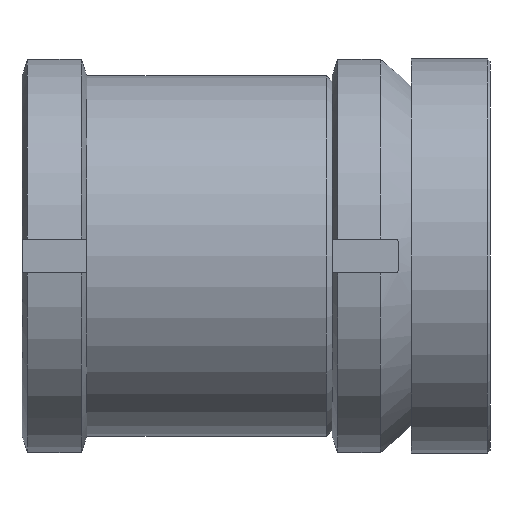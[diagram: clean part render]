
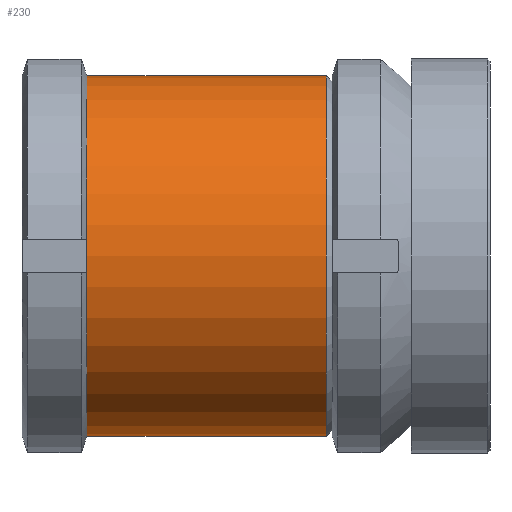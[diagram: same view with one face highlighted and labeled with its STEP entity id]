
A CAD part, front view. The second image highlights one B-rep face of the part: STEP entity #230.
In plain terms, the highlighted cylindrical face has radius 32 mm (diameter 64 mm), a full revolution.
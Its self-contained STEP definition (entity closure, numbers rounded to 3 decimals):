
#230 = ADVANCED_FACE( '', ( #326, #327 ), #328, .T. );
#326 = FACE_OUTER_BOUND( '', #481, .T. );
#327 = FACE_OUTER_BOUND( '', #482, .T. );
#328 = CYLINDRICAL_SURFACE( '', #483, 32. );
#481 = EDGE_LOOP( '', ( #761 ) );
#482 = EDGE_LOOP( '', ( #762 ) );
#483 = AXIS2_PLACEMENT_3D( '', #763, #764, #765 );
#761 = ORIENTED_EDGE( '', *, *, #1032, .F. );
#762 = ORIENTED_EDGE( '', *, *, #1066, .T. );
#763 = CARTESIAN_POINT( '', ( 0., 0., 0. ) );
#764 = DIRECTION( '', ( 0., 1., 0. ) );
#765 = DIRECTION( '', ( 0., 0., -1. ) );
#1032 = EDGE_CURVE( '', #1174, #1174, #1175, .T. );
#1066 = EDGE_CURVE( '', #1227, #1227, #1228, .T. );
#1174 = VERTEX_POINT( '', #1458 );
#1175 = CIRCLE( '', #1459, 32. );
#1227 = VERTEX_POINT( '', #1579 );
#1228 = CIRCLE( '', #1580, 32. );
#1458 = CARTESIAN_POINT( '', ( 0., 11.5, -32. ) );
#1459 = AXIS2_PLACEMENT_3D( '', #1795, #1796, #1797 );
#1579 = CARTESIAN_POINT( '', ( 0., 54., -32. ) );
#1580 = AXIS2_PLACEMENT_3D( '', #1836, #1837, #1838 );
#1795 = CARTESIAN_POINT( '', ( 0., 11.5, 0. ) );
#1796 = DIRECTION( '', ( 0., -1., 0. ) );
#1797 = DIRECTION( '', ( 0., 0., -1. ) );
#1836 = CARTESIAN_POINT( '', ( 0., 54., 0. ) );
#1837 = DIRECTION( '', ( 0., -1., 0. ) );
#1838 = DIRECTION( '', ( 0., 0., -1. ) );
